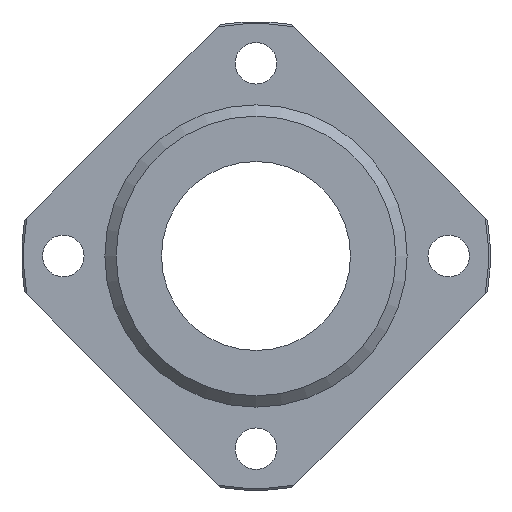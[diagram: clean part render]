
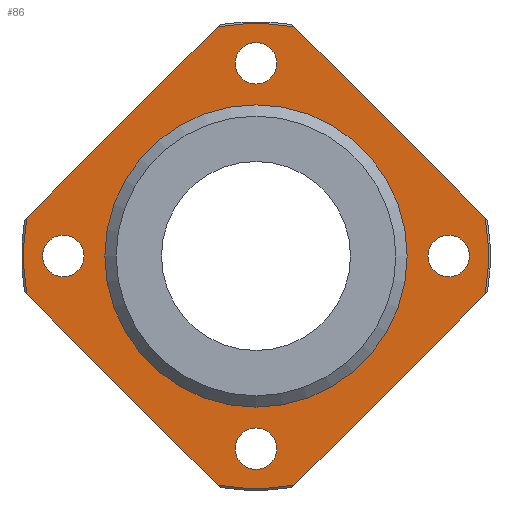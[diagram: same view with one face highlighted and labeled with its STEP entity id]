
A CAD part, left-side view. The second image highlights one B-rep face of the part: STEP entity #86.
In plain terms, the highlighted planar face has unit normal (-1, 0, 0).
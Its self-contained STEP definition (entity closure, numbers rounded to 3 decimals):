
#86=ADVANCED_FACE('',(#135,#136,#137,#138,#139,#140),#141,.F.);
#135=FACE_BOUND('',#238,.T.);
#136=FACE_BOUND('',#239,.T.);
#137=FACE_BOUND('',#240,.T.);
#138=FACE_BOUND('',#241,.T.);
#139=FACE_BOUND('',#242,.T.);
#140=FACE_OUTER_BOUND('',#243,.T.);
#141=PLANE('',#244);
#238=EDGE_LOOP('',(#408));
#239=EDGE_LOOP('',(#409));
#240=EDGE_LOOP('',(#410));
#241=EDGE_LOOP('',(#411));
#242=EDGE_LOOP('',(#412));
#243=EDGE_LOOP('',(#413,#414,#415,#416,#417,#418,#419,#420));
#244=AXIS2_PLACEMENT_3D('',#421,#422,#423);
#408=ORIENTED_EDGE('',*,*,#614,.T.);
#409=ORIENTED_EDGE('',*,*,#615,.T.);
#410=ORIENTED_EDGE('',*,*,#616,.T.);
#411=ORIENTED_EDGE('',*,*,#617,.T.);
#412=ORIENTED_EDGE('',*,*,#618,.T.);
#413=ORIENTED_EDGE('',*,*,#609,.F.);
#414=ORIENTED_EDGE('',*,*,#576,.T.);
#415=ORIENTED_EDGE('',*,*,#610,.F.);
#416=ORIENTED_EDGE('',*,*,#619,.T.);
#417=ORIENTED_EDGE('',*,*,#606,.F.);
#418=ORIENTED_EDGE('',*,*,#594,.T.);
#419=ORIENTED_EDGE('',*,*,#612,.F.);
#420=ORIENTED_EDGE('',*,*,#587,.T.);
#421=CARTESIAN_POINT('',(-11.0,20.0,0.0));
#422=DIRECTION('',(1.0,0.0,0.0));
#423=DIRECTION('',(0.0,0.0,-1.0));
#576=EDGE_CURVE('',#651,#649,#652,.T.);
#587=EDGE_CURVE('',#671,#669,#672,.T.);
#594=EDGE_CURVE('',#685,#683,#686,.T.);
#606=EDGE_CURVE('',#685,#706,#707,.T.);
#609=EDGE_CURVE('',#651,#669,#710,.T.);
#610=EDGE_CURVE('',#711,#649,#712,.T.);
#612=EDGE_CURVE('',#671,#683,#714,.T.);
#614=EDGE_CURVE('',#716,#716,#717,.T.);
#615=EDGE_CURVE('',#718,#718,#719,.T.);
#616=EDGE_CURVE('',#720,#720,#721,.T.);
#617=EDGE_CURVE('',#722,#722,#723,.T.);
#618=EDGE_CURVE('',#724,#724,#725,.T.);
#619=EDGE_CURVE('',#711,#706,#726,.T.);
#649=VERTEX_POINT('',#778);
#651=VERTEX_POINT('',#783);
#652=LINE('',#784,#785);
#669=VERTEX_POINT('',#817);
#671=VERTEX_POINT('',#822);
#672=LINE('',#823,#824);
#683=VERTEX_POINT('',#844);
#685=VERTEX_POINT('',#849);
#686=LINE('',#850,#851);
#706=VERTEX_POINT('',#884);
#707=CIRCLE('',#885,30.746);
#710=CIRCLE('',#891,30.746);
#711=VERTEX_POINT('',#892);
#712=CIRCLE('',#893,30.746);
#714=CIRCLE('',#898,30.746);
#716=VERTEX_POINT('',#900);
#717=CIRCLE('',#901,20.0);
#718=VERTEX_POINT('',#902);
#719=CIRCLE('',#903,2.75);
#720=VERTEX_POINT('',#904);
#721=CIRCLE('',#905,2.75);
#722=VERTEX_POINT('',#906);
#723=CIRCLE('',#907,2.75);
#724=VERTEX_POINT('',#908);
#725=CIRCLE('',#909,2.75);
#726=LINE('',#910,#911);
#778=CARTESIAN_POINT('',(-11.0,30.333,5.022));
#783=CARTESIAN_POINT('',(-11.0,5.022,30.333));
#784=CARTESIAN_POINT('',(-11.0,27.678,7.678));
#785=VECTOR('',#967,1.0);
#817=CARTESIAN_POINT('',(-11.0,-5.022,30.333));
#822=CARTESIAN_POINT('',(-11.0,-30.333,5.022));
#823=CARTESIAN_POINT('',(-11.0,-7.678,27.678));
#824=VECTOR('',#977,1.0);
#844=CARTESIAN_POINT('',(-11.0,-30.333,-5.022));
#849=CARTESIAN_POINT('',(-11.0,-5.022,-30.333));
#850=CARTESIAN_POINT('',(-11.0,-7.678,-27.678));
#851=VECTOR('',#981,1.0);
#884=CARTESIAN_POINT('',(-11.0,5.022,-30.333));
#885=AXIS2_PLACEMENT_3D('',#998,#999,#1000);
#891=AXIS2_PLACEMENT_3D('',#1004,#1005,#1006);
#892=CARTESIAN_POINT('',(-11.0,30.333,-5.022));
#893=AXIS2_PLACEMENT_3D('',#1007,#1008,#1009);
#898=AXIS2_PLACEMENT_3D('',#1010,#1011,#1012);
#900=CARTESIAN_POINT('',(-11.0,0.,-20.0));
#901=AXIS2_PLACEMENT_3D('',#1016,#1017,#1018);
#902=CARTESIAN_POINT('',(-11.0,25.5,-2.75));
#903=AXIS2_PLACEMENT_3D('',#1019,#1020,#1021);
#904=CARTESIAN_POINT('',(-11.0,0.,-28.25));
#905=AXIS2_PLACEMENT_3D('',#1022,#1023,#1024);
#906=CARTESIAN_POINT('',(-11.0,-25.5,-2.75));
#907=AXIS2_PLACEMENT_3D('',#1025,#1026,#1027);
#908=CARTESIAN_POINT('',(-11.0,0.,22.75));
#909=AXIS2_PLACEMENT_3D('',#1028,#1029,#1030);
#910=CARTESIAN_POINT('',(-11.0,27.678,-7.678));
#911=VECTOR('',#1031,1.0);
#967=DIRECTION('',(0.0,0.707,-0.707));
#977=DIRECTION('',(0.0,0.707,0.707));
#981=DIRECTION('',(0.0,-0.707,0.707));
#998=CARTESIAN_POINT('',(-11.0,0.,0.0));
#999=DIRECTION('',(1.0,0.0,0.0));
#1000=DIRECTION('',(0.0,0.0,-1.0));
#1004=CARTESIAN_POINT('',(-11.0,0.,0.0));
#1005=DIRECTION('',(1.0,0.0,0.0));
#1006=DIRECTION('',(0.0,0.0,-1.0));
#1007=CARTESIAN_POINT('',(-11.0,0.,0.0));
#1008=DIRECTION('',(1.0,0.0,0.0));
#1009=DIRECTION('',(0.0,0.0,-1.0));
#1010=CARTESIAN_POINT('',(-11.0,0.,0.0));
#1011=DIRECTION('',(1.0,0.0,0.0));
#1012=DIRECTION('',(0.0,0.0,-1.0));
#1016=CARTESIAN_POINT('',(-11.0,0.,0.0));
#1017=DIRECTION('',(1.0,0.0,0.0));
#1018=DIRECTION('',(0.0,0.0,-1.0));
#1019=CARTESIAN_POINT('',(-11.0,25.5,0.0));
#1020=DIRECTION('',(1.0,0.0,0.0));
#1021=DIRECTION('',(0.0,0.0,-1.0));
#1022=CARTESIAN_POINT('',(-11.0,0.,-25.5));
#1023=DIRECTION('',(1.0,0.0,0.0));
#1024=DIRECTION('',(0.0,0.0,-1.0));
#1025=CARTESIAN_POINT('',(-11.0,-25.5,0.0));
#1026=DIRECTION('',(1.0,0.0,0.0));
#1027=DIRECTION('',(0.0,0.0,-1.0));
#1028=CARTESIAN_POINT('',(-11.0,0.,25.5));
#1029=DIRECTION('',(1.0,0.0,0.0));
#1030=DIRECTION('',(0.0,0.0,-1.0));
#1031=DIRECTION('',(0.0,-0.707,-0.707));
